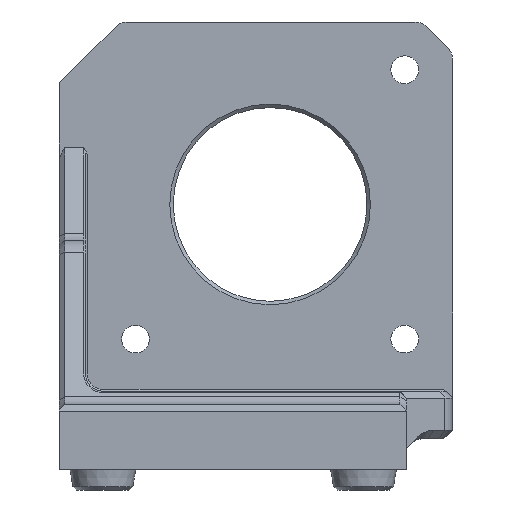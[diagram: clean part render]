
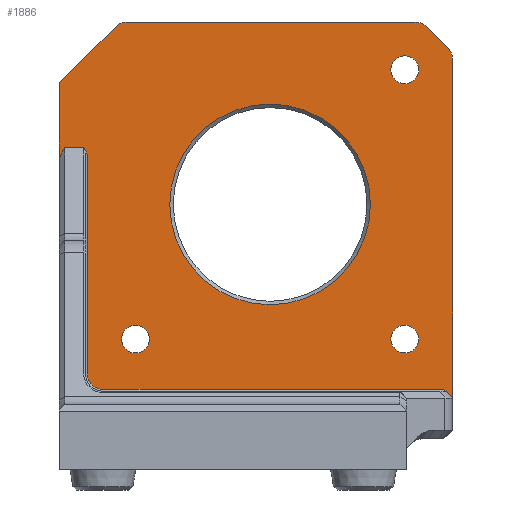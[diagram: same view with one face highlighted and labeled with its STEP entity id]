
A CAD part, front view. The second image highlights one B-rep face of the part: STEP entity #1886.
In plain terms, the highlighted planar face has unit normal (0, -1, 0).
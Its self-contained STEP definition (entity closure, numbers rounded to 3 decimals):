
#86=FACE_BOUND('',#300,.T.);
#87=FACE_BOUND('',#301,.T.);
#88=FACE_BOUND('',#302,.T.);
#89=FACE_BOUND('',#303,.T.);
#114=PLANE('',#2045);
#179=FACE_OUTER_BOUND('',#299,.T.);
#299=EDGE_LOOP('',(#1417,#1418,#1419,#1420,#1421,#1422,#1423,#1424,#1425,
#1426,#1427,#1428,#1429,#1430,#1431));
#300=EDGE_LOOP('',(#1432));
#301=EDGE_LOOP('',(#1433));
#302=EDGE_LOOP('',(#1434));
#303=EDGE_LOOP('',(#1435));
#432=CIRCLE('',#2043,1.8);
#433=CIRCLE('',#2046,2.);
#434=CIRCLE('',#2047,2.);
#435=CIRCLE('',#2048,2.);
#436=CIRCLE('',#2049,11.55);
#437=CIRCLE('',#2050,1.6);
#438=CIRCLE('',#2051,1.6);
#439=CIRCLE('',#2052,1.6);
#523=LINE('',#2893,#705);
#537=LINE('',#2924,#719);
#540=LINE('',#2933,#722);
#541=LINE('',#2936,#723);
#542=LINE('',#2938,#724);
#543=LINE('',#2942,#725);
#544=LINE('',#2946,#726);
#545=LINE('',#2949,#727);
#546=LINE('',#2951,#728);
#547=LINE('',#2953,#729);
#548=LINE('',#2954,#730);
#705=VECTOR('',#2316,10.);
#719=VECTOR('',#2340,10.);
#722=VECTOR('',#2351,10.);
#723=VECTOR('',#2354,10.);
#724=VECTOR('',#2355,10.);
#725=VECTOR('',#2358,10.);
#726=VECTOR('',#2361,10.);
#727=VECTOR('',#2364,10.);
#728=VECTOR('',#2365,10.);
#729=VECTOR('',#2366,10.);
#730=VECTOR('',#2367,10.);
#899=VERTEX_POINT('',#2890);
#900=VERTEX_POINT('',#2892);
#910=VERTEX_POINT('',#2918);
#912=VERTEX_POINT('',#2922);
#913=VERTEX_POINT('',#2927);
#914=VERTEX_POINT('',#2931);
#915=VERTEX_POINT('',#2935);
#916=VERTEX_POINT('',#2937);
#917=VERTEX_POINT('',#2939);
#918=VERTEX_POINT('',#2941);
#919=VERTEX_POINT('',#2943);
#920=VERTEX_POINT('',#2945);
#921=VERTEX_POINT('',#2947);
#922=VERTEX_POINT('',#2950);
#923=VERTEX_POINT('',#2952);
#924=VERTEX_POINT('',#2955);
#925=VERTEX_POINT('',#2957);
#926=VERTEX_POINT('',#2959);
#927=VERTEX_POINT('',#2961);
#1080=EDGE_CURVE('',#899,#900,#523,.T.);
#1096=EDGE_CURVE('',#910,#912,#537,.T.);
#1099=EDGE_CURVE('',#912,#913,#432,.T.);
#1101=EDGE_CURVE('',#913,#914,#540,.T.);
#1102=EDGE_CURVE('',#914,#915,#541,.T.);
#1103=EDGE_CURVE('',#915,#916,#542,.T.);
#1104=EDGE_CURVE('',#916,#917,#433,.T.);
#1105=EDGE_CURVE('',#917,#918,#543,.T.);
#1106=EDGE_CURVE('',#918,#919,#434,.T.);
#1107=EDGE_CURVE('',#920,#919,#544,.T.);
#1108=EDGE_CURVE('',#920,#921,#435,.T.);
#1109=EDGE_CURVE('',#921,#900,#545,.T.);
#1110=EDGE_CURVE('',#899,#922,#546,.F.);
#1111=EDGE_CURVE('',#923,#922,#547,.T.);
#1112=EDGE_CURVE('',#923,#910,#548,.F.);
#1113=EDGE_CURVE('',#924,#924,#436,.T.);
#1114=EDGE_CURVE('',#925,#925,#437,.T.);
#1115=EDGE_CURVE('',#926,#926,#438,.T.);
#1116=EDGE_CURVE('',#927,#927,#439,.T.);
#1417=ORIENTED_EDGE('',*,*,#1102,.T.);
#1418=ORIENTED_EDGE('',*,*,#1103,.T.);
#1419=ORIENTED_EDGE('',*,*,#1104,.T.);
#1420=ORIENTED_EDGE('',*,*,#1105,.T.);
#1421=ORIENTED_EDGE('',*,*,#1106,.T.);
#1422=ORIENTED_EDGE('',*,*,#1107,.F.);
#1423=ORIENTED_EDGE('',*,*,#1108,.T.);
#1424=ORIENTED_EDGE('',*,*,#1109,.T.);
#1425=ORIENTED_EDGE('',*,*,#1080,.F.);
#1426=ORIENTED_EDGE('',*,*,#1110,.T.);
#1427=ORIENTED_EDGE('',*,*,#1111,.F.);
#1428=ORIENTED_EDGE('',*,*,#1112,.T.);
#1429=ORIENTED_EDGE('',*,*,#1096,.T.);
#1430=ORIENTED_EDGE('',*,*,#1099,.T.);
#1431=ORIENTED_EDGE('',*,*,#1101,.T.);
#1432=ORIENTED_EDGE('',*,*,#1113,.T.);
#1433=ORIENTED_EDGE('',*,*,#1114,.F.);
#1434=ORIENTED_EDGE('',*,*,#1115,.F.);
#1435=ORIENTED_EDGE('',*,*,#1116,.F.);
#1886=ADVANCED_FACE('',(#179,#86,#87,#88,#89),#114,.F.);
#2043=AXIS2_PLACEMENT_3D('',#2929,#2346,#2347);
#2045=AXIS2_PLACEMENT_3D('',#2934,#2352,#2353);
#2046=AXIS2_PLACEMENT_3D('',#2940,#2356,#2357);
#2047=AXIS2_PLACEMENT_3D('',#2944,#2359,#2360);
#2048=AXIS2_PLACEMENT_3D('',#2948,#2362,#2363);
#2049=AXIS2_PLACEMENT_3D('',#2956,#2368,#2369);
#2050=AXIS2_PLACEMENT_3D('',#2958,#2370,#2371);
#2051=AXIS2_PLACEMENT_3D('',#2960,#2372,#2373);
#2052=AXIS2_PLACEMENT_3D('',#2962,#2374,#2375);
#2316=DIRECTION('',(0.,0.,1.));
#2340=DIRECTION('',(0.,0.,-1.));
#2346=DIRECTION('center_axis',(0.,-1.,0.));
#2347=DIRECTION('ref_axis',(-0.707,0.,-0.707));
#2351=DIRECTION('',(1.,0.,0.));
#2352=DIRECTION('center_axis',(0.,1.,0.));
#2353=DIRECTION('ref_axis',(0.,0.,1.));
#2354=DIRECTION('',(0.707,0.,-0.707));
#2355=DIRECTION('',(0.,0.,1.));
#2356=DIRECTION('center_axis',(0.,-1.,0.));
#2357=DIRECTION('ref_axis',(0.924,0.,0.383));
#2358=DIRECTION('',(-0.707,0.,0.707));
#2359=DIRECTION('center_axis',(0.,-1.,0.));
#2360=DIRECTION('ref_axis',(0.383,0.,0.924));
#2361=DIRECTION('',(1.,0.,0.));
#2362=DIRECTION('center_axis',(0.,-1.,0.));
#2363=DIRECTION('ref_axis',(-0.383,0.,0.924));
#2364=DIRECTION('',(-0.707,0.,-0.707));
#2365=DIRECTION('',(-0.498,0.,-0.867));
#2366=DIRECTION('',(-1.,0.,0.));
#2367=DIRECTION('',(-0.498,0.,0.867));
#2368=DIRECTION('center_axis',(0.,1.,0.));
#2369=DIRECTION('ref_axis',(-1.,0.,0.));
#2370=DIRECTION('center_axis',(0.,-1.,0.));
#2371=DIRECTION('ref_axis',(-1.,0.,0.));
#2372=DIRECTION('center_axis',(0.,-1.,0.));
#2373=DIRECTION('ref_axis',(-1.,0.,0.));
#2374=DIRECTION('center_axis',(0.,-1.,0.));
#2375=DIRECTION('ref_axis',(-1.,0.,0.));
#2890=CARTESIAN_POINT('',(-22.338,-9.,101.263));
#2892=CARTESIAN_POINT('',(-22.338,-9.,109.809));
#2893=CARTESIAN_POINT('',(-22.338,-9.,77.696));
#2918=CARTESIAN_POINT('',(-19.138,-9.,101.611));
#2922=CARTESIAN_POINT('',(-19.138,-9.,76.309));
#2924=CARTESIAN_POINT('',(-19.138,-9.,81.309));
#2927=CARTESIAN_POINT('',(-17.338,-9.,74.509));
#2929=CARTESIAN_POINT('Origin',(-17.338,-9.,76.309));
#2931=CARTESIAN_POINT('',(21.912,-9.,74.509));
#2933=CARTESIAN_POINT('',(-22.338,-9.,74.509));
#2934=CARTESIAN_POINT('Origin',(-22.338,-9.,74.309));
#2935=CARTESIAN_POINT('',(22.912,-9.,73.509));
#2936=CARTESIAN_POINT('',(11.2,-9.,85.221));
#2937=CARTESIAN_POINT('',(22.912,-9.,112.48));
#2938=CARTESIAN_POINT('',(22.912,-9.,77.696));
#2939=CARTESIAN_POINT('',(22.326,-9.,113.895));
#2940=CARTESIAN_POINT('Origin',(20.912,-9.,112.48));
#2941=CARTESIAN_POINT('',(19.998,-9.,116.223));
#2942=CARTESIAN_POINT('',(20.475,-9.,115.746));
#2943=CARTESIAN_POINT('',(18.584,-9.,116.809));
#2944=CARTESIAN_POINT('Origin',(18.584,-9.,114.809));
#2945=CARTESIAN_POINT('',(-14.509,-9.,116.809));
#2946=CARTESIAN_POINT('',(-22.338,-9.,116.809));
#2947=CARTESIAN_POINT('',(-15.924,-9.,116.223));
#2948=CARTESIAN_POINT('Origin',(-14.509,-9.,114.809));
#2949=CARTESIAN_POINT('',(-29.463,-9.,102.684));
#2950=CARTESIAN_POINT('',(-21.738,-9.,102.309));
#2951=CARTESIAN_POINT('',(-30.994,-9.,86.172));
#2952=CARTESIAN_POINT('',(-19.538,-9.,102.309));
#2953=CARTESIAN_POINT('',(-22.338,-9.,102.309));
#2954=CARTESIAN_POINT('',(-10.855,-9.,87.17));
#2955=CARTESIAN_POINT('',(13.462,-9.,95.809));
#2956=CARTESIAN_POINT('Origin',(1.912,-9.,95.809));
#2957=CARTESIAN_POINT('',(19.012,-9.,111.309));
#2958=CARTESIAN_POINT('Origin',(17.412,-9.,111.309));
#2959=CARTESIAN_POINT('',(-11.988,-9.,80.309));
#2960=CARTESIAN_POINT('Origin',(-13.588,-9.,80.309));
#2961=CARTESIAN_POINT('',(19.012,-9.,80.309));
#2962=CARTESIAN_POINT('Origin',(17.412,-9.,80.309));
